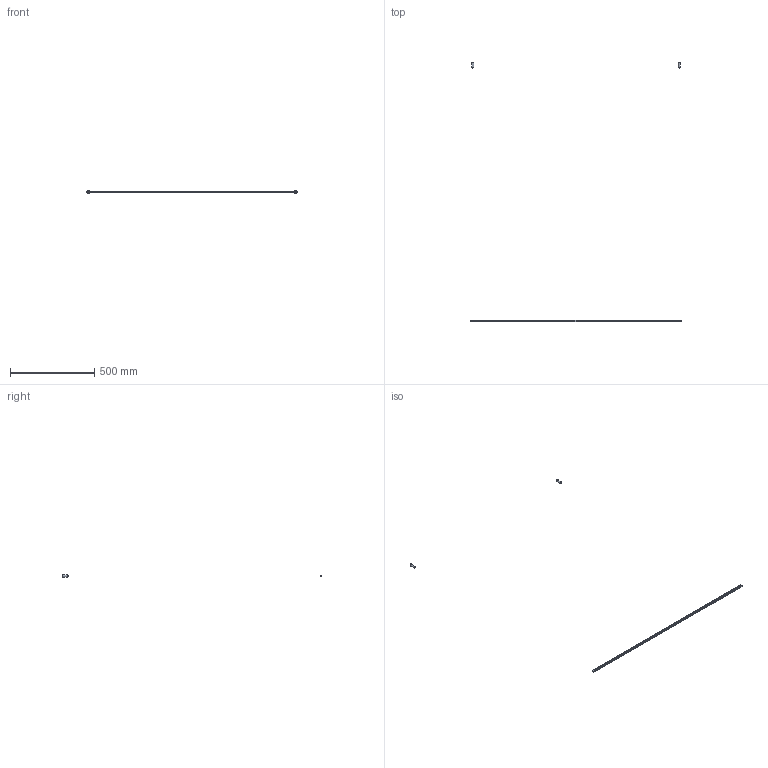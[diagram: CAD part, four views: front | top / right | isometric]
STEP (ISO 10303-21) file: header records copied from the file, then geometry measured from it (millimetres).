
FILE_DESCRIPTION(/* description */ (''),/* implementation_level */ '2;1');
FILE_NAME(/* name */ 'SHANGHAI 2.stp',/* time_stamp */ '2024-02-13T17:48:58+01:00',/* author */ ('n.bisotti'),/* organization */ (''),/* preprocessor_version */ 'ST-DEVELOPER v19.2',/* originating_system */ 'Autodesk Inventor 2023',/* authorisation */ '');
FILE_SCHEMA (('AUTOMOTIVE_DESIGN { 1 0 10303 214 3 1 1 }'));
Length unit declared in the file: millimetre
Products named in the file (3): 1712 - SHANGHAI; CORPO; ROSONCINO
Assembly tree (3 placements, depth 2):
  1712 - SHANGHAI
    CORPO
    ROSONCINO  x2
Bounding box: 1250 x 1546 x 16 mm (x, y, z)
Volume: 72802.4 mm3; surface area: 102234.3 mm2
Topology: 3 solids, 3 shells, 62 faces, 140 edges, 92 vertices
Faces by surface type: plane 46, cylinder 14, torus 2
Full cylindrical faces by diameter (mm): 1 x2, 2.5 x2, 3 x2, 7 x2, 12 x2, 16 x2
Entity records: 1454 total; most frequent: DIRECTION 236, CARTESIAN_POINT 220, ORIENTED_EDGE 204, EDGE_CURVE 102, AXIS2_PLACEMENT_3D 83, LINE 70, VECTOR 70, VERTEX_POINT 67
